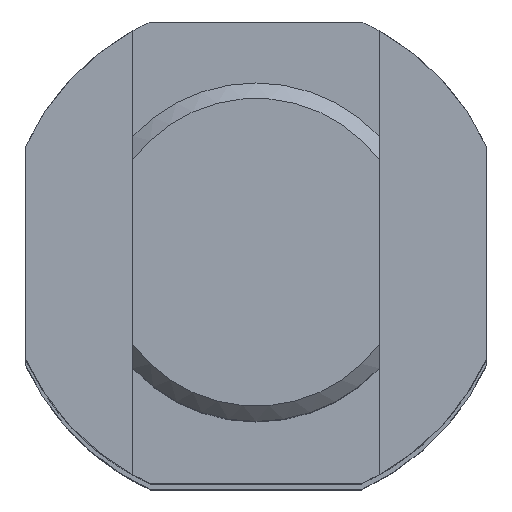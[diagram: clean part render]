
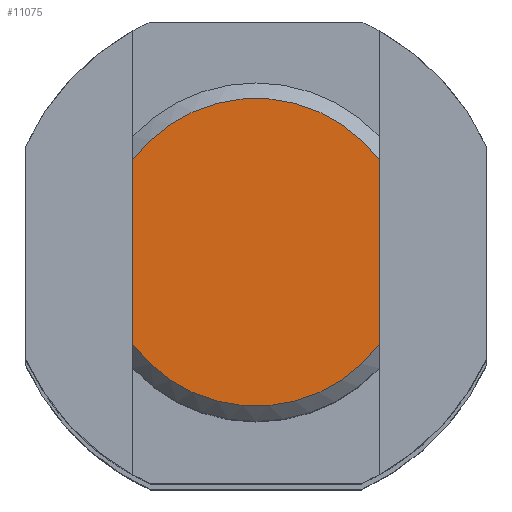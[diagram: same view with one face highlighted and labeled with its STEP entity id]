
A CAD part, top view. The second image highlights one B-rep face of the part: STEP entity #11075.
In plain terms, the highlighted planar face has unit normal (0, 0, 1) as drawn and (1, 0, 0) by its records, which use the part's own axes.
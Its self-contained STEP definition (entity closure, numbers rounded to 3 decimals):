
#145 = VERTEX_POINT ( 'NONE', #5725 ) ;
#227 = VECTOR ( 'NONE', #19880, 1000. ) ;
#1545 = ORIENTED_EDGE ( 'NONE', *, *, #4156, .T. ) ;
#2545 = AXIS2_PLACEMENT_3D ( 'NONE', #16569, #14675, #13439 ) ;
#2893 = ORIENTED_EDGE ( 'NONE', *, *, #18407, .T. ) ;
#3161 = LINE ( 'NONE', #15876, #12804 ) ;
#4156 = EDGE_CURVE ( 'NONE', #145, #4981, #11882, .T. ) ;
#4408 = LINE ( 'NONE', #10413, #227 ) ;
#4981 = VERTEX_POINT ( 'NONE', #14244 ) ;
#5725 = CARTESIAN_POINT ( 'NONE',  ( 45.5, -6., 8. ) ) ;
#7244 = CIRCLE ( 'NONE', #9905, 10. ) ;
#8046 = FACE_OUTER_BOUND ( 'NONE', #19925, .T. ) ;
#9056 = ORIENTED_EDGE ( 'NONE', *, *, #14692, .T. ) ;
#9905 = AXIS2_PLACEMENT_3D ( 'NONE', #11151, #14258, #17503 ) ;
#10013 = CARTESIAN_POINT ( 'NONE',  ( 45.5, 6., 8. ) ) ;
#10413 = CARTESIAN_POINT ( 'NONE',  ( 45.5, 11., -8. ) ) ;
#10694 = ORIENTED_EDGE ( 'NONE', *, *, #18806, .T. ) ;
#10981 = CARTESIAN_POINT ( 'NONE',  ( 45.5, 6., -8. ) ) ;
#11075 = ADVANCED_FACE ( 'NONE', ( #8046 ), #17227, .F. ) ;
#11151 = CARTESIAN_POINT ( 'NONE',  ( 45.5, 0., 0. ) ) ;
#11882 = CIRCLE ( 'NONE', #2545, 10. ) ;
#12804 = VECTOR ( 'NONE', #15768, 1000. ) ;
#12839 = DIRECTION ( 'NONE',  ( -1., 0., 0. ) ) ;
#13439 = DIRECTION ( 'NONE',  ( 0., 0., 1. ) ) ;
#14244 = CARTESIAN_POINT ( 'NONE',  ( 45.5, -6., -8. ) ) ;
#14258 = DIRECTION ( 'NONE',  ( 1., 0., 0. ) ) ;
#14462 = AXIS2_PLACEMENT_3D ( 'NONE', #17329, #12839, #18788 ) ;
#14675 = DIRECTION ( 'NONE',  ( 1., 0., 0. ) ) ;
#14692 = EDGE_CURVE ( 'NONE', #4981, #19423, #4408, .T. ) ;
#15768 = DIRECTION ( 'NONE',  ( 0., -1., 0. ) ) ;
#15876 = CARTESIAN_POINT ( 'NONE',  ( 45.5, 11., 8. ) ) ;
#16399 = VERTEX_POINT ( 'NONE', #10013 ) ;
#16569 = CARTESIAN_POINT ( 'NONE',  ( 45.5, 0., 0. ) ) ;
#17227 = PLANE ( 'NONE',  #14462 ) ;
#17329 = CARTESIAN_POINT ( 'NONE',  ( 45.5, 11., 0. ) ) ;
#17503 = DIRECTION ( 'NONE',  ( 0., 0., 1. ) ) ;
#18407 = EDGE_CURVE ( 'NONE', #19423, #16399, #7244, .T. ) ;
#18788 = DIRECTION ( 'NONE',  ( 0., 0., 1. ) ) ;
#18806 = EDGE_CURVE ( 'NONE', #16399, #145, #3161, .T. ) ;
#19423 = VERTEX_POINT ( 'NONE', #10981 ) ;
#19880 = DIRECTION ( 'NONE',  ( 0., 1., 0. ) ) ;
#19925 = EDGE_LOOP ( 'NONE', ( #9056, #2893, #10694, #1545 ) ) ;
